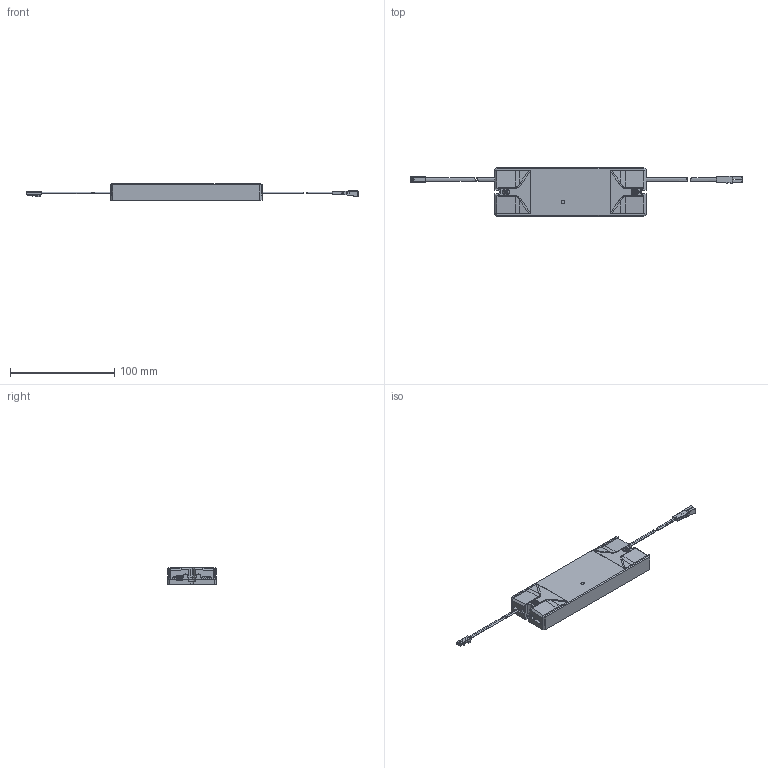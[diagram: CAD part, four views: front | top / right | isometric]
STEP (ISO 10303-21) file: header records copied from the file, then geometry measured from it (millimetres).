
FILE_DESCRIPTION (( 'STEP AP203' ), '1' );
FILE_NAME ('Smartempfänger_12VDC_24.STEP', '2024-12-02T08:49:32', ( '' ), ( '' ), 'SwSTEP 2.0', 'SolidWorks 2023', '' );
FILE_SCHEMA (( 'CONFIG_CONTROL_DESIGN' ));
Length unit declared in the file: millimetre
Products named in the file (6): LED_Buchse_2019_ohne_AEH; Smartempfänger_12VDC_24; 3110001_ohne Endkappen; 2588501_25.885.01 - schwarz; Blechschraube_3,0x10; LED_Stecker_2019
Assembly tree (7 placements, depth 2):
  Smartempfänger_12VDC_24
    3110001_ohne Endkappen
    LED_Stecker_2019
    LED_Buchse_2019_ohne_AEH
    Blechschraube_3,0x10  x2
    2588501_25.885.01 - schwarz  x2
Bounding box: 318.2 x 46.5 x 16 mm (x, y, z)
Volume: 85959.9 mm3; surface area: 41025.1 mm2
Topology: 15 solids, 15 shells, 1202 faces, 3159 edges, 1938 vertices
Faces by surface type: plane 769, cylinder 285, torus 54, sphere 47, bspline 31, cone 16
Entity records: 28163 total; most frequent: CARTESIAN_POINT 6896, ORIENTED_EDGE 4372, DIRECTION 4201, EDGE_CURVE 2186, VECTOR 1571, LINE 1571, VERTEX_POINT 1345, AXIS2_PLACEMENT_3D 1315
